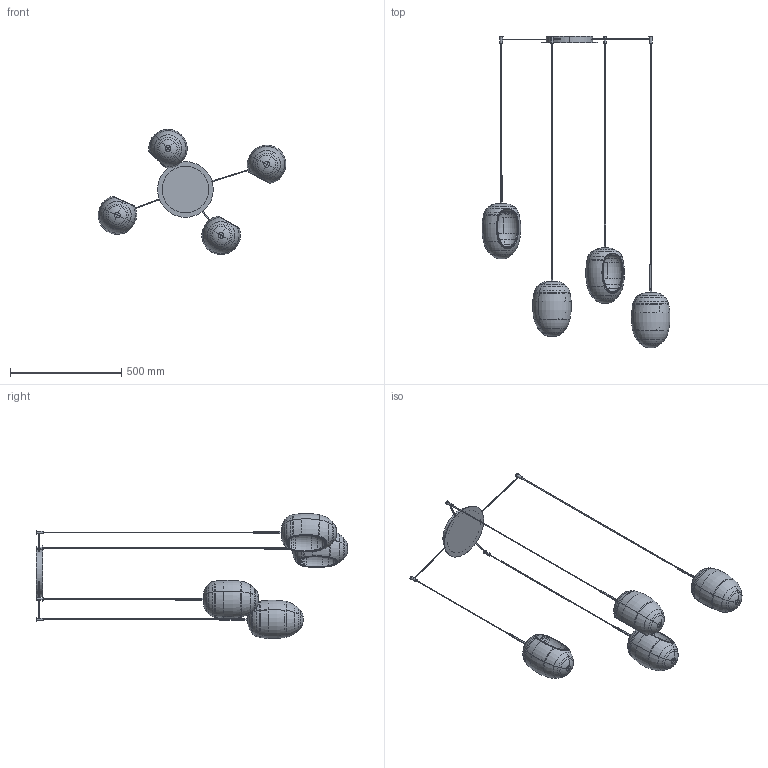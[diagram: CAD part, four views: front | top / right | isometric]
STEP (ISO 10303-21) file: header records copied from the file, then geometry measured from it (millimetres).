
FILE_DESCRIPTION (( 'STEP AP203' ), '1' );
FILE_NAME ('FOS04_4 sospensione.STEP', '2025-05-19T07:12:46', ( '' ), ( '' ), 'SwSTEP 2.0', 'SolidWorks 2022', '' );
FILE_SCHEMA (( 'CONFIG_CONTROL_DESIGN' ));
Length unit declared in the file: millimetre
Products named in the file (12): Cavo x Fos_H=1600; FOSxx-01-FOS_lampada completa con cavo_H=1600; FOSxx-01-FOS_lampada completa con cavo_H=2000; FOS parte in vetro; Cavo x Fos_H=1650; Porta lampada definitivo FOS; FOSxx-01-FOS_rosone+cavi_FOS_4 sospensione<A macchina>; FOSxx-01-FOS_lampada completa con cavo_H=1800; FOSxx-01-FOS_lampada completa con cavo_H=1650; FOS04_4 sospensione; Cavo x Fos_H=2000; Cavo x Fos_H=1800
Assembly tree (17 placements, depth 3):
  FOS04_4 sospensione
    FOSxx-01-FOS_rosone+cavi_FOS_4 sospensione<A macchina>
    FOSxx-01-FOS_lampada completa con cavo_H=2000
      Porta lampada definitivo FOS
      FOS parte in vetro
      Cavo x Fos_H=2000
    FOSxx-01-FOS_lampada completa con cavo_H=1650
      Porta lampada definitivo FOS
      FOS parte in vetro
      Cavo x Fos_H=1650
    FOSxx-01-FOS_lampada completa con cavo_H=1800
      Porta lampada definitivo FOS
      FOS parte in vetro
      Cavo x Fos_H=1800
    FOSxx-01-FOS_lampada completa con cavo_H=1600
      Porta lampada definitivo FOS
      FOS parte in vetro
      Cavo x Fos_H=1600
Bounding box: 843.78 x 1400.54 x 562.06 mm (x, y, z)
Volume: 2695625.4 mm3; surface area: 1425521.4 mm2
Topology: 41 solids, 41 shells, 926 faces, 2203 edges, 1364 vertices
Faces by surface type: torus 324, plane 243, cylinder 187, bspline 88, cone 84
Entity records: 16208 total; most frequent: CARTESIAN_POINT 8253, DIRECTION 1436, ORIENTED_EDGE 1328, EDGE_CURVE 664, AXIS2_PLACEMENT_3D 612, VERTEX_POINT 416, CIRCLE 320, EDGE_LOOP 304
